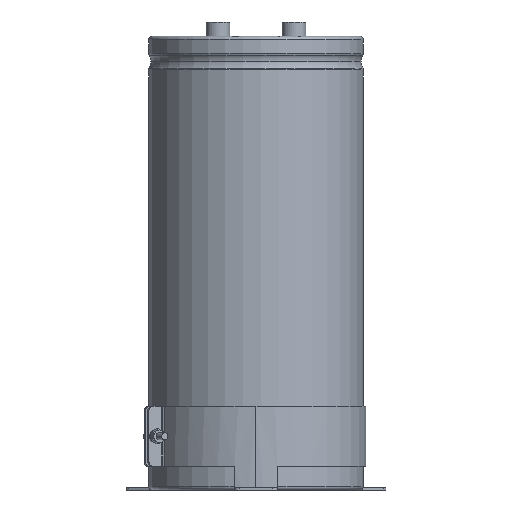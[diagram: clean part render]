
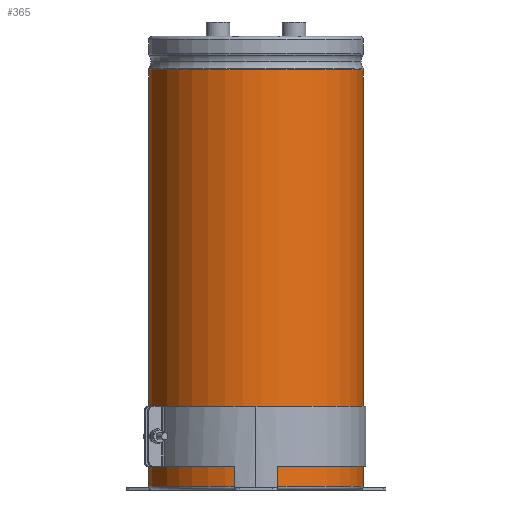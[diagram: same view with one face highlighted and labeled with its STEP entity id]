
A CAD part, left-side view. The second image highlights one B-rep face of the part: STEP entity #365.
In plain terms, the highlighted cylindrical face has radius 45 mm (diameter 90 mm), a partial arc.
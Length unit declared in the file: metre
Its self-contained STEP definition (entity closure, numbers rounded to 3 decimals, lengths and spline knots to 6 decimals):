
#365=ADVANCED_FACE('0:237',(#597),#598,.T.);
#597=FACE_OUTER_BOUND('',#1082,.T.);
#598=CYLINDRICAL_SURFACE('',#1083,0.045);
#1082=EDGE_LOOP('',(#2038,#2039,#2040,#2041));
#1083=AXIS2_PLACEMENT_3D('',#2042,#2043,#2044);
#2038=ORIENTED_EDGE('',*,*,#2995,.T.);
#2039=ORIENTED_EDGE('',*,*,#3004,.T.);
#2040=ORIENTED_EDGE('',*,*,#3006,.T.);
#2041=ORIENTED_EDGE('',*,*,#3007,.F.);
#2042=CARTESIAN_POINT('',(0.0,0.0,0.0));
#2043=DIRECTION('',(-0.0,0.0,1.0));
#2044=DIRECTION('',(0.0,1.0,0.0));
#2995=EDGE_CURVE('',#5626,#5634,#5635,.T.);
#3004=EDGE_CURVE('0:309',#5634,#5645,#5647,.T.);
#3006=EDGE_CURVE('0:312',#5645,#5649,#5650,.T.);
#3007=EDGE_CURVE('0:315',#5626,#5649,#5651,.T.);
#5626=VERTEX_POINT('',#6662);
#5634=VERTEX_POINT('',#6670);
#5635=LINE('',#6671,#6672);
#5645=VERTEX_POINT('',#6683);
#5647=CIRCLE('',#6685,0.045);
#5649=VERTEX_POINT('',#6687);
#5650=LINE('',#6688,#6689);
#5651=CIRCLE('',#6690,0.045);
#6662=CARTESIAN_POINT('',(0.,-0.045,0.0015));
#6670=CARTESIAN_POINT('',(0.,-0.045,0.1759));
#6671=CARTESIAN_POINT('',(0.,-0.045,0.0887));
#6672=VECTOR('',#8209,1.0);
#6683=CARTESIAN_POINT('',(-0.004,0.044822,0.1759));
#6685=AXIS2_PLACEMENT_3D('',#8226,#8227,#8228);
#6687=CARTESIAN_POINT('',(-0.004,0.044822,0.0015));
#6688=CARTESIAN_POINT('',(-0.004,0.044822,0.1759));
#6689=VECTOR('',#8229,0.001);
#6690=AXIS2_PLACEMENT_3D('',#8230,#8231,#8232);
#8209=DIRECTION('',(0.0,0.0,1.0));
#8226=CARTESIAN_POINT('',(0.0,0.0,0.1759));
#8227=DIRECTION('',(0.0,0.0,-1.0));
#8228=DIRECTION('',(0.0,1.0,0.0));
#8229=DIRECTION('',(0.0,0.0,-1.0));
#8230=CARTESIAN_POINT('',(0.0,0.0,0.0015));
#8231=DIRECTION('',(0.0,0.0,-1.0));
#8232=DIRECTION('',(0.0,1.0,0.0));
